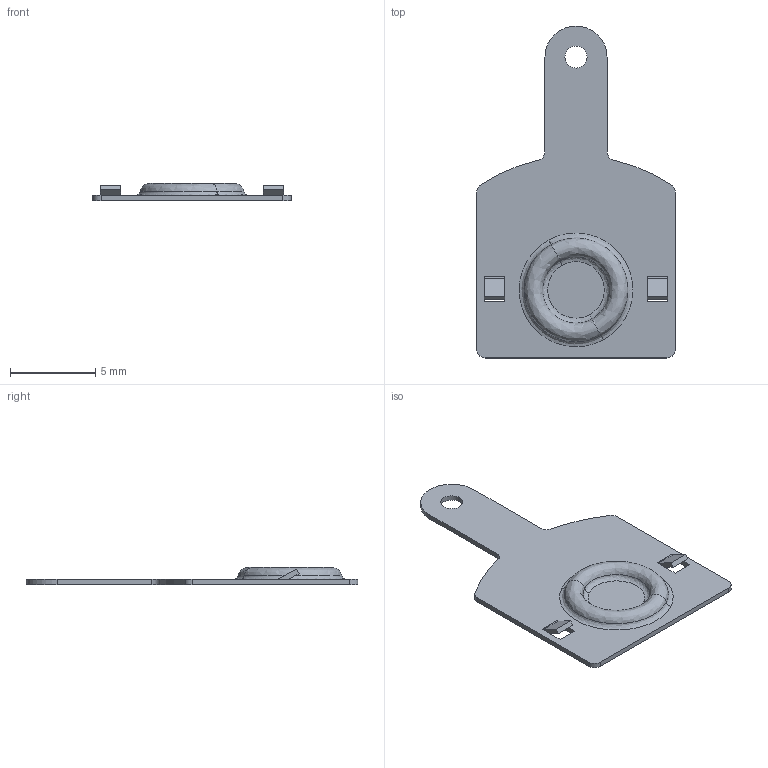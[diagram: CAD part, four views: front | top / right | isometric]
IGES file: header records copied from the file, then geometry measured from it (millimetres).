
Start section: START RECORD GO HERE.
Global section: file name: AA-Batteriekontakt_Plus.igs; native system: IBM CATIA IGES - CATIA Version 5 Release 19 ; preprocessor: CATIA Version 5 Release 19 ; author: admin; organization: M0815; date: 20260514.141926; units: millimetre
Bounding box: 11.65 x 19.5 x 1 mm (x, y, z)
Surface area: 356.9 mm2 (no closed solid volume)
Topology: 0 solids, 0 shells, 52 faces, 264 edges, 264 vertices
Faces by surface type: revolution 27, plane 25
